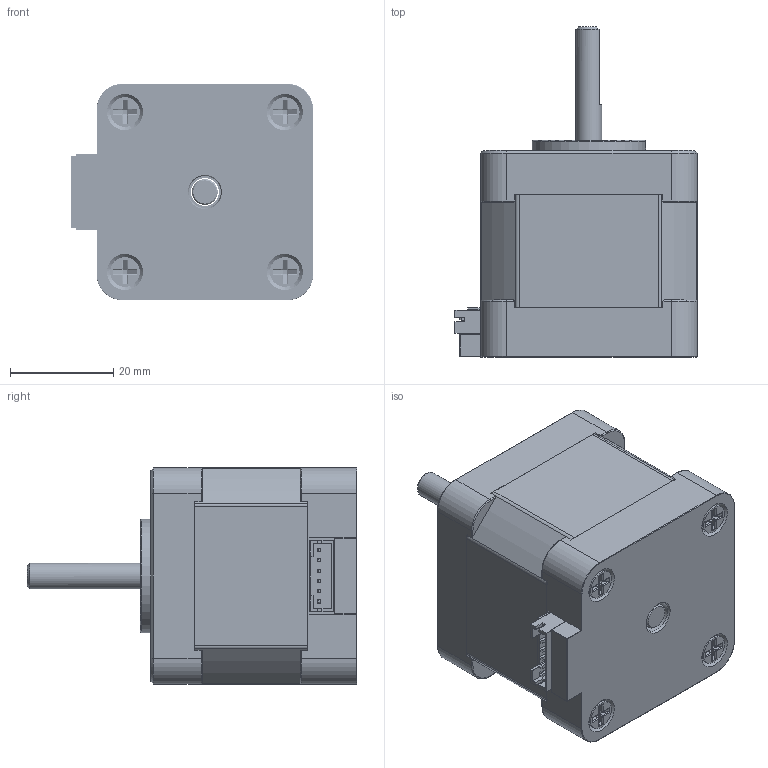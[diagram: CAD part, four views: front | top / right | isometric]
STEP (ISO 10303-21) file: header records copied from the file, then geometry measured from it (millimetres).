
FILE_DESCRIPTION(/* description */ (''),/* implementation_level */ '2;1');
FILE_NAME(/* name */ 'NEMA17-50-168-09 v1.step',/* time_stamp */ '2025-06-13T11:56:00+02:00',/* author */ (''),/* organization */ (''),/* preprocessor_version */ 'ST-DEVELOPER v20.1',/* originating_system */ 'Autodesk Translation Framework v14.10.0.0',/* authorisation */ '');
FILE_SCHEMA (('AUTOMOTIVE_DESIGN { 1 0 10303 214 3 1 1 }'));
Products named in the file (18): NEMA17-50-168-09; M4 Screw 20mm; M4 Screw 20mm (1); M4 Screw 20mm (2); M4 Screw 20mm (3); Shaft; Cap; Base; JST B6B-PH-K-S; Component5; Component7; Component6; Component10; Component8; Component11; Component9; Component17; Core Laminate
Assembly tree (17 placements, depth 3):
  NEMA17-50-168-09
    M4 Screw 20mm
    M4 Screw 20mm (1)
    M4 Screw 20mm (2)
    M4 Screw 20mm (3)
    Shaft
    Cap
    Base
    JST B6B-PH-K-S
      Component5
      Component7
      Component6
      Component10
      Component8
      Component11
      Component9
      Component17
    Core Laminate
Bounding box: 47.01 x 64 x 42 mm (x, y, z)
Volume: 49566.3 mm3; surface area: 23790.9 mm2
Topology: 16 solids, 16 shells, 1065 faces, 2801 edges, 1783 vertices
Faces by surface type: cylinder 681, plane 274, sphere 54, torus 21, bspline 18, cone 17
Full cylindrical faces by diameter (mm): 2.529 x32, 3.086 x16, 3.111 x44, 3.529 x4, 3.908 x92, 4 x4, 4.168 x4, 5 x1, 5.4 x2, 5.75 x4, 6.2 x2, 22 x1, 30 x1
Entity records: 59917 total; most frequent: CARTESIAN_POINT 34613, ORIENTED_EDGE 5602, DIRECTION 4478, EDGE_CURVE 2801, VERTEX_POINT 1783, AXIS2_PLACEMENT_3D 1590, LINE 1298, VECTOR 1298
